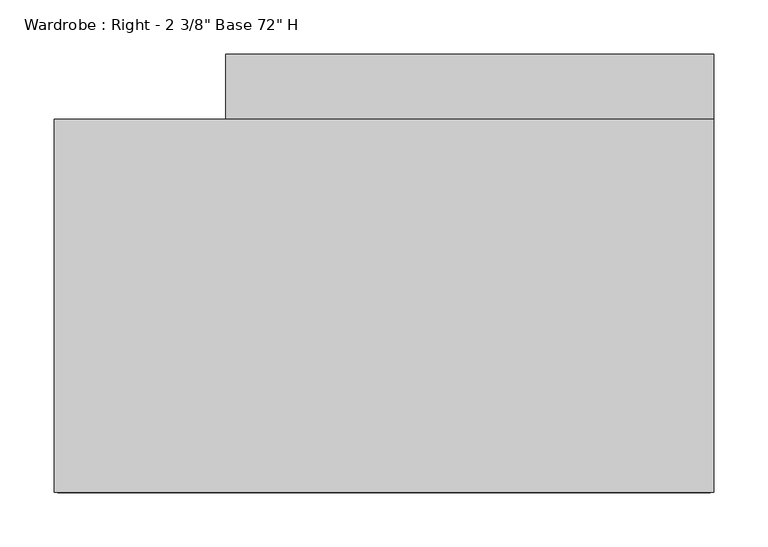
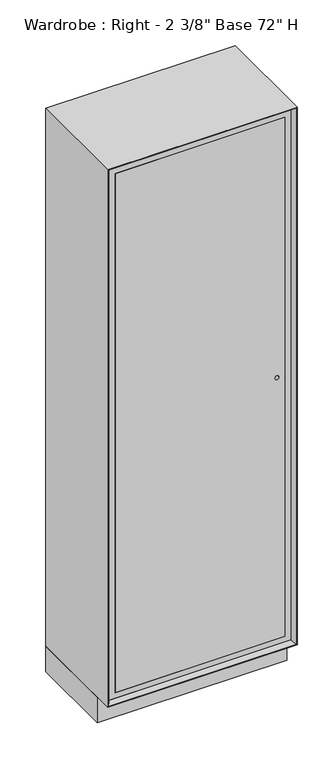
"""IFC4 building model written with IfcOpenShell, lengths in millimetres: furniture geometry."""

from ifc_helpers import new_model, si_unit, point, frame, frame_2d, origin, origin_with_axes, place, context, project, spatial, polyline, circle_curve, trimmed, segment, composite_curve, outline, extrude, faceted_brep, source, transform, mapped, element, save


def furniture_94937b59(model_context):
    return source(origin(), model_context, "Body", "SolidModel", [
        extrude(outline(polyline([(1884.3625, -273.05), (119.0625, -273.05), (119.0625, 273.05), (1884.3625, 273.05), (1884.3625, -273.05)]), holes=[composite_curve([segment(trimmed(circle_curve(frame_2d((1008.0625, 247.65)), 6.35), [point((1008.0625, 254.0))], [point((1008.0625, 241.3))], True, "CARTESIAN"), True, "CONTINUOUS"), segment(trimmed(circle_curve(frame_2d((1008.0625, 247.65)), 6.35), [point((1008.0625, 241.3))], [point((1008.0625, 254.0))], True, "CARTESIAN"), True, "CONTINUOUS")], self_intersect=False)]), frame((0.0, -392.1125, 0.0), z_axis=(0.0, 1.0, 0.0), x_axis=(0.0, 0.0, 1.0)), (0.0, 0.0, 1.0), 19.05),
        extrude(outline(polyline([(1903.4125, 292.1), (1903.4125, -292.1), (100.0125, -292.1), (100.0125, 292.1), (1903.4125, 292.1)]), holes=[polyline([(1884.3625, -273.05), (1884.3625, 273.05), (119.0625, 273.05), (119.0625, -273.05), (1884.3625, -273.05)])]), frame((0.0, -392.1125, 0.0), z_axis=(0.0, 1.0, 0.0), x_axis=(0.0, 0.0, 1.0)), (0.0, 0.0, 1.0), 331.7875),
        extrude(outline(polyline([(273.05, -60.325), (273.05, -79.375), (-273.05, -79.375), (-273.05, -60.325), (273.05, -60.325)])), frame((0.0, 0.0, 119.0625), z_axis=(0.0, 0.0, 1.0), x_axis=(1.0, 0.0, 0.0)), (0.0, 0.0, 1.0), 1765.3),
        faceted_brep([(292.1, -392.1125, 1903.4125), (292.1, -60.325, 1903.4125), (292.1, -60.325, 100.0125), (292.1, -392.1125, 100.0125), (301.625, -404.8125, 1912.9375), (301.625, -404.8125, 90.4875), (304.8, -60.325, 1916.1125), (304.8, -404.8125, 1916.1125), (304.8, -404.8125, 87.3125), (304.8, -60.325, 87.3125), (-292.1, -60.325, 100.0125), (-292.1, -392.1125, 100.0125), (-301.625, -404.8125, 90.4875), (-304.8, -404.8125, 87.3125), (-304.8, -60.325, 87.3125), (-292.1, -60.325, 1903.4125), (-292.1, -392.1125, 1903.4125), (-301.625, -404.8125, 1912.9375), (-304.8, -404.8125, 1916.1125), (-304.8, -60.325, 1916.1125)], [[[0, 1, 2, 3]], [[4, 0, 3, 5]], [[6, 7, 8, 9]], [[3, 2, 10, 11]], [[5, 3, 11, 12]], [[9, 8, 13, 14]], [[11, 10, 15, 16]], [[12, 11, 16, 17]], [[14, 13, 18, 19]], [[9, 14, 19, 6], [1, 15, 10, 2]], [[16, 15, 1, 0]], [[17, 16, 0, 4]], [[7, 18, 13, 8], [5, 12, 17, 4]], [[19, 18, 7, 6]]]),
        extrude(outline(polyline([(304.8, -60.325), (304.8, -347.6625), (-304.8, -347.6625), (-304.8, -60.325), (304.8, -60.325)])), origin_with_axes(), (0.0, 0.0, 1.0), 87.3125),
        extrude(outline(polyline([(304.8, 0.0), (304.8, -60.325), (-146.2, -60.325), (-146.2, 0.0), (304.8, 0.0)])), origin_with_axes(), (0.0, 0.0, 1.0), 1765.3),
    ])


if __name__ == "__main__":
    model = new_model("IFC4")
    model_context = context("Model", 3, world=origin())
    ifc_project = project(units=[si_unit("LENGTHUNIT", "METRE", prefix="MILLI")], contexts=[model_context])
    site = spatial("IfcSite", under=ifc_project)
    building = spatial("IfcBuilding", under=site)
    placement = place(None, origin())
    furniture_shape = furniture_94937b59(model_context)
    element("IfcFurniture", 1, ObjectType="Wardrobe : Right - 2 3/8\" Base 72\" H", at=placement, inside=building, context=model_context, shape_type="MappedRepresentation", body=[
        mapped(furniture_shape, transform((0.0, 0.0, 0.0), x_axis=(1.0, 0.0, 0.0), y_axis=(0.0, 1.0, 0.0), z_axis=(0.0, 0.0, 1.0))),
    ])
    save(model, "model.ifc")
